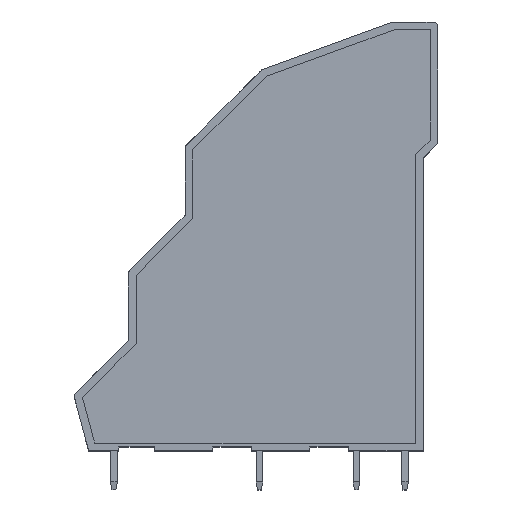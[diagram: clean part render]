
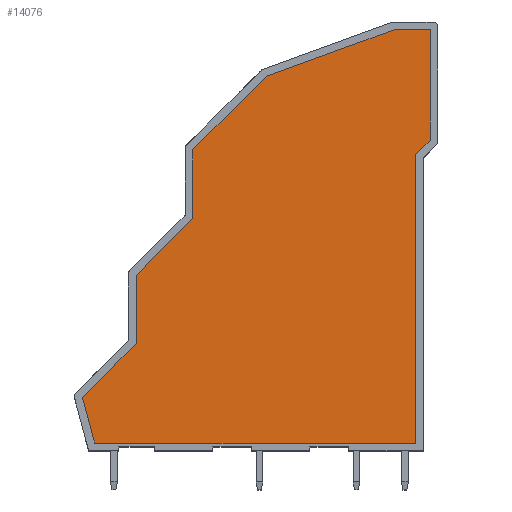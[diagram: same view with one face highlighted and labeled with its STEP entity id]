
A CAD part, top view. The second image highlights one B-rep face of the part: STEP entity #14076.
In plain terms, the highlighted planar face has unit normal (0, 0, 1).
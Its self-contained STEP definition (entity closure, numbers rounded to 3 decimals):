
#4565=DIRECTION('',(0.707,0.707,0.));
#4566=VECTOR('',#4565,10.742);
#4567=CARTESIAN_POINT('',(12.232,31.014,16.8));
#4568=LINE('',#4567,#4566);
#4569=DIRECTION('',(0.94,0.342,0.));
#4570=VECTOR('',#4569,14.005);
#4571=CARTESIAN_POINT('',(19.828,38.61,16.8));
#4572=LINE('',#4571,#4570);
#4573=DIRECTION('',(1.,0.,0.));
#4574=VECTOR('',#4573,3.711);
#4575=CARTESIAN_POINT('',(32.989,43.4,16.8));
#4576=LINE('',#4575,#4574);
#4577=DIRECTION('',(0.,-1.,0.));
#4578=VECTOR('',#4577,11.369);
#4579=CARTESIAN_POINT('',(36.7,43.4,16.8));
#4580=LINE('',#4579,#4578);
#4581=DIRECTION('',(-0.707,-0.707,0.));
#4582=VECTOR('',#4581,2.121);
#4583=CARTESIAN_POINT('',(36.7,32.031,16.8));
#4584=LINE('',#4583,#4582);
#4585=DIRECTION('',(0.,-1.,0.));
#4586=VECTOR('',#4585,29.731);
#4587=CARTESIAN_POINT('',(35.2,30.531,16.8));
#4588=LINE('',#4587,#4586);
#4589=DIRECTION('',(-1.,0.,0.));
#4590=VECTOR('',#4589,33.086);
#4591=CARTESIAN_POINT('',(35.2,0.8,16.8));
#4592=LINE('',#4591,#4590);
#4593=DIRECTION('',(-0.259,0.966,0.));
#4594=VECTOR('',#4593,4.861);
#4595=CARTESIAN_POINT('',(2.114,0.8,16.8));
#4596=LINE('',#4595,#4594);
#4597=DIRECTION('',(0.707,0.707,0.));
#4598=VECTOR('',#4597,7.841);
#4599=CARTESIAN_POINT('',(0.856,5.495,16.8));
#4600=LINE('',#4599,#4598);
#4601=DIRECTION('',(0.,1.,0.));
#4602=VECTOR('',#4601,7.071);
#4603=CARTESIAN_POINT('',(6.4,11.04,16.8));
#4604=LINE('',#4603,#4602);
#4605=DIRECTION('',(0.707,0.707,0.));
#4606=VECTOR('',#4605,8.248);
#4607=CARTESIAN_POINT('',(6.4,18.111,16.8));
#4608=LINE('',#4607,#4606);
#4609=DIRECTION('',(0.,1.,0.));
#4610=VECTOR('',#4609,7.071);
#4611=CARTESIAN_POINT('',(12.232,23.943,16.8));
#4612=LINE('',#4611,#4610);
#6717=CARTESIAN_POINT('',(19.828,38.61,16.8));
#6718=VERTEX_POINT('',#6717);
#6719=CARTESIAN_POINT('',(12.232,31.014,16.8));
#6720=VERTEX_POINT('',#6719);
#6721=CARTESIAN_POINT('',(32.989,43.4,16.8));
#6722=VERTEX_POINT('',#6721);
#6723=CARTESIAN_POINT('',(36.7,43.4,16.8));
#6724=VERTEX_POINT('',#6723);
#6725=CARTESIAN_POINT('',(36.7,32.031,16.8));
#6726=VERTEX_POINT('',#6725);
#6727=CARTESIAN_POINT('',(35.2,30.531,16.8));
#6728=VERTEX_POINT('',#6727);
#6729=CARTESIAN_POINT('',(35.2,0.8,16.8));
#6730=VERTEX_POINT('',#6729);
#6731=CARTESIAN_POINT('',(2.114,0.8,16.8));
#6732=VERTEX_POINT('',#6731);
#6733=CARTESIAN_POINT('',(0.856,5.495,16.8));
#6734=VERTEX_POINT('',#6733);
#6735=CARTESIAN_POINT('',(6.4,11.04,16.8));
#6736=VERTEX_POINT('',#6735);
#6737=CARTESIAN_POINT('',(6.4,18.111,16.8));
#6738=VERTEX_POINT('',#6737);
#6739=CARTESIAN_POINT('',(12.232,23.943,16.8));
#6740=VERTEX_POINT('',#6739);
#14057=CARTESIAN_POINT('',(37.5,813.386,16.8));
#14058=DIRECTION('',(0.,0.,1.));
#14059=DIRECTION('',(1.,0.,0.));
#14060=AXIS2_PLACEMENT_3D('',#14057,#14058,#14059);
#14061=PLANE('',#14060);
#14062=ORIENTED_EDGE('',*,*,#13897,.T.);
#14063=ORIENTED_EDGE('',*,*,#13912,.T.);
#14064=ORIENTED_EDGE('',*,*,#13926,.T.);
#14065=ORIENTED_EDGE('',*,*,#13940,.T.);
#14066=ORIENTED_EDGE('',*,*,#13954,.T.);
#14067=ORIENTED_EDGE('',*,*,#13968,.T.);
#14068=ORIENTED_EDGE('',*,*,#13982,.T.);
#14069=ORIENTED_EDGE('',*,*,#13996,.T.);
#14070=ORIENTED_EDGE('',*,*,#14010,.T.);
#14071=ORIENTED_EDGE('',*,*,#14024,.T.);
#14072=ORIENTED_EDGE('',*,*,#14038,.T.);
#14073=ORIENTED_EDGE('',*,*,#14051,.T.);
#14074=EDGE_LOOP('',(#14062,#14063,#14064,#14065,#14066,#14067,#14068,#14069,
#14070,#14071,#14072,#14073));
#14075=FACE_OUTER_BOUND('',#14074,.F.);
#14076=ADVANCED_FACE('',(#14075),#14061,.T.);
#13897=EDGE_CURVE('',#6720,#6718,#4568,.T.);
#13912=EDGE_CURVE('',#6718,#6722,#4572,.T.);
#13926=EDGE_CURVE('',#6722,#6724,#4576,.T.);
#13940=EDGE_CURVE('',#6724,#6726,#4580,.T.);
#13954=EDGE_CURVE('',#6726,#6728,#4584,.T.);
#13968=EDGE_CURVE('',#6728,#6730,#4588,.T.);
#13982=EDGE_CURVE('',#6730,#6732,#4592,.T.);
#13996=EDGE_CURVE('',#6732,#6734,#4596,.T.);
#14010=EDGE_CURVE('',#6734,#6736,#4600,.T.);
#14024=EDGE_CURVE('',#6736,#6738,#4604,.T.);
#14038=EDGE_CURVE('',#6738,#6740,#4608,.T.);
#14051=EDGE_CURVE('',#6740,#6720,#4612,.T.);
